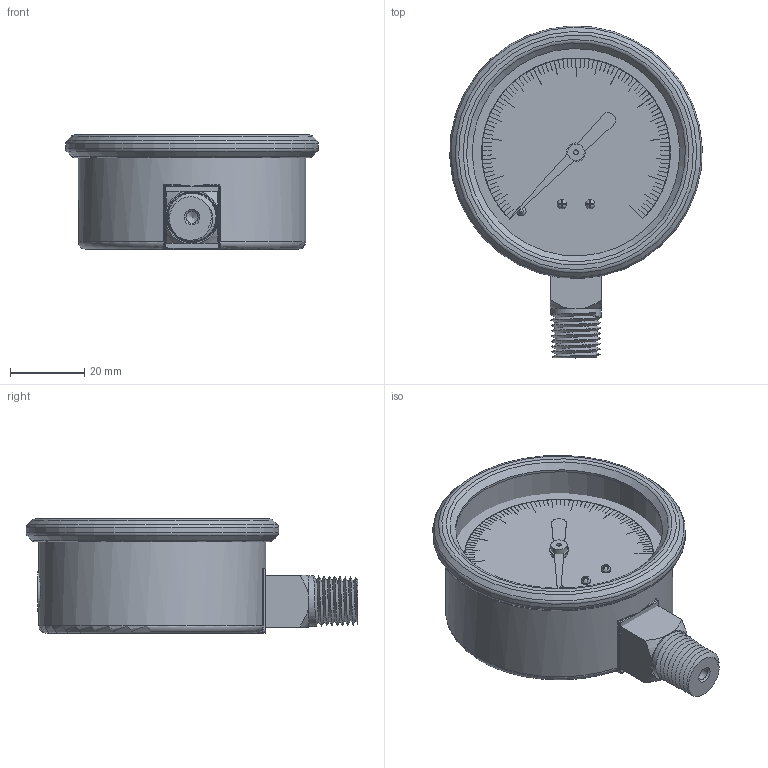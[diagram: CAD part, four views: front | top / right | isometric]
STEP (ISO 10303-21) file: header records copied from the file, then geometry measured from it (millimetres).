
FILE_DESCRIPTION(/* description */ (''),/* implementation_level */ '2;1');
FILE_NAME(/* name */ 'PM25C1A4.stp',/* time_stamp */ '2024-06-21T14:30:01-05:00',/* author */ ('mpinzon'),/* organization */ (''),/* preprocessor_version */ 'ST-DEVELOPER v19.2',/* originating_system */ 'Autodesk Inventor 2024',/* authorisation */ '');
FILE_SCHEMA (('AUTOMOTIVE_DESIGN { 1 0 10303 214 3 1 1 }'));
Length unit declared in the file: inch
Products named in the file (10): 20991 - PM25C1A2; PM25 BOTTOM CONNECT BASE_GPI; PM25 BEZEL_GPI; PR25 BLACK DIAL_GPI; PR25 Dial_GPI; PR25 NEEDLE SCREW_GPI; PR25 BLACK NEEDLE_GPI; 10001 dial pointer stop_GPI; DIAL SCREW_GPI; PM25 QUARTER INCH NPT_GPI2
Assembly tree (10 placements, depth 2):
  20991 - PM25C1A2
    PM25 BOTTOM CONNECT BASE_GPI
    PM25 BEZEL_GPI
    PR25 BLACK DIAL_GPI
    PR25 Dial_GPI
    PR25 NEEDLE SCREW_GPI
    PR25 BLACK NEEDLE_GPI
    10001 dial pointer stop_GPI
    DIAL SCREW_GPI  x2
    PM25 QUARTER INCH NPT_GPI2
Bounding box: 68.02 x 89.38 x 30.73 mm (x, y, z)
Volume: 30083.2 mm3; surface area: 32937.9 mm2
Topology: 10 solids, 10 shells, 618 faces, 1590 edges, 1048 vertices
Faces by surface type: plane 478, cylinder 96, torus 16, bspline 13, cone 10, sphere 5
Full cylindrical faces by diameter (mm): 1.016 x3, 1.27 x1, 2.54 x5, 2.635 x1, 3.242 x1, 4.064 x1, 4.445 x1, 10.668 x1, 13.716 x1, 55.88 x1, 57.359 x1, 58.42 x2, 60.96 x1, 61.214 x1, 68.072 x1
Entity records: 20440 total; most frequent: CARTESIAN_POINT 5175, ORIENTED_EDGE 3092, DIRECTION 2989, EDGE_CURVE 1546, LINE 1245, VECTOR 1245, VERTEX_POINT 1021, AXIS2_PLACEMENT_3D 872
